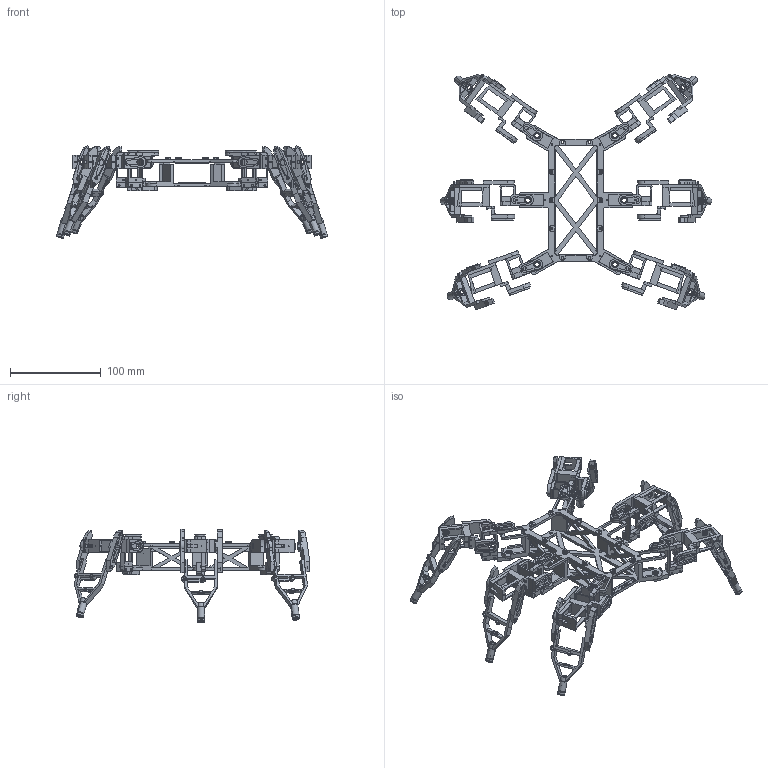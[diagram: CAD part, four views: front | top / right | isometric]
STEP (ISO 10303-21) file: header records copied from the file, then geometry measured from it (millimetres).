
FILE_DESCRIPTION (( 'STEP AP214' ), '1' );
FILE_NAME ('Assem(no hardware).STEP', '2024-12-09T04:55:12', ( '' ), ( '' ), 'SwSTEP 2.0', 'SolidWorks 2020', '' );
FILE_SCHEMA (( 'AUTOMOTIVE_DESIGN' ));
Length unit declared in the file: millimetre
Products named in the file (28): MirrorLeg_Tip.step1; Leg_Tip.step; Lower_Arduino_Holder.step; Coxa_Opposite.step; Upper_Arduino_Holder.step; Tibia_Main.step; Part6^nohardaseemb; MirrorCoxa_Opposite.step1; MirrorFemur_Main.step; Assem(no hardware); Femur_Opposite.step; Coxa_Main.step; MirrorCoxa_Main.step1; Base.step; MirrorTibia_Main.step1; MirrorTibia_Main.step; Femur_Main.step; Tibia_Opposite.step; MirrorFemur_Opposite.step1; MirrorLeg_Tip.step; Circuit_Board_Clip.step; MirrorTibia_Opposite.step1; MirrorFemur_Opposite.step; Upper_Plate.step; MirrorCoxa_Main.step; MirrorTibia_Opposite.step; MirrorCoxa_Opposite.step; MirrorFemur_Main.step1
Assembly tree (56 placements, depth 2):
  Part6^nohardaseemb
  Assem(no hardware)
    Base.step
    Upper_Plate.step
    Circuit_Board_Clip.step  x10
    Lower_Arduino_Holder.step
    Upper_Arduino_Holder.step
    Coxa_Main.step  x3
    Femur_Main.step  x3
    Tibia_Main.step  x3
    Leg_Tip.step  x3
    Coxa_Opposite.step  x3
    Femur_Opposite.step  x3
    Tibia_Opposite.step  x3
    MirrorCoxa_Main.step  x2
    MirrorCoxa_Opposite.step  x2
    MirrorFemur_Main.step  x2
    MirrorFemur_Opposite.step  x2
    MirrorTibia_Main.step  x2
    MirrorTibia_Opposite.step  x2
    MirrorLeg_Tip.step  x2
    MirrorTibia_Opposite.step1
    MirrorCoxa_Main.step1
    MirrorCoxa_Opposite.step1
    MirrorFemur_Opposite.step1
    MirrorFemur_Main.step1
    MirrorTibia_Main.step1
    MirrorLeg_Tip.step1
Bounding box: 299.06 x 259.54 x 102.59 mm (x, y, z)
Volume: 177339.8 mm3; surface area: 162218.4 mm2
Topology: 56 solids, 56 shells, 3357 faces, 8621 edges, 5352 vertices
Faces by surface type: plane 2270, cylinder 1075, cone 12
Entity records: 59474 total; most frequent: DIRECTION 10175, CARTESIAN_POINT 10024, ORIENTED_EDGE 9898, EDGE_CURVE 4949, VECTOR 3609, LINE 3609, AXIS2_PLACEMENT_3D 3283, VERTEX_POINT 3096
